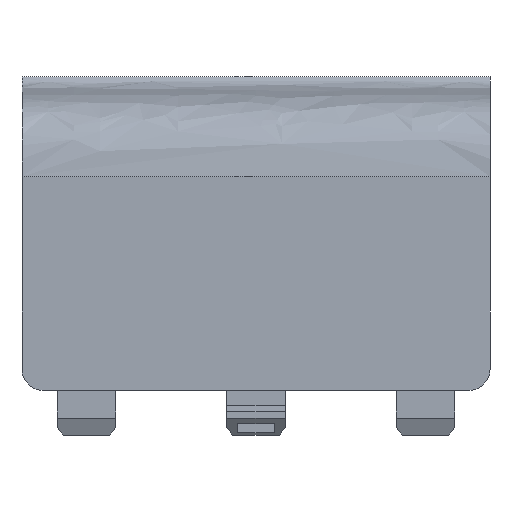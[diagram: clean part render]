
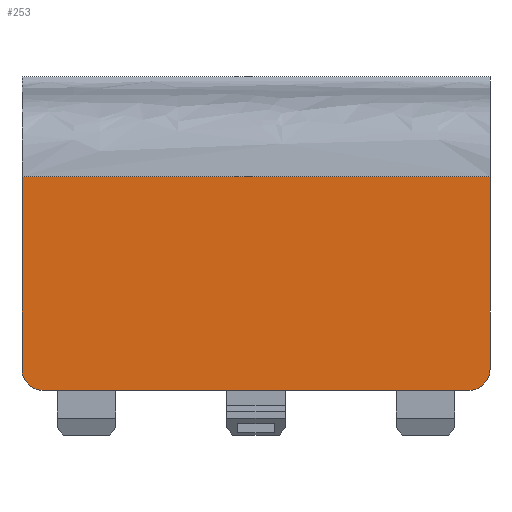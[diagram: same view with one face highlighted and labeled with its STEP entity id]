
A CAD part, front view. The second image highlights one B-rep face of the part: STEP entity #253.
In plain terms, the highlighted planar face has unit normal (0, -1, 0).
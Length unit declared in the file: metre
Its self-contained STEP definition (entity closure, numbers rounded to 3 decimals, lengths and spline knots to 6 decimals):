
#253 = ADVANCED_FACE( '', ( #563 ), #564, .F. );
#563 = FACE_OUTER_BOUND( '', #929, .T. );
#564 = PLANE( '', #930 );
#929 = EDGE_LOOP( '', ( #1696, #1697, #1698, #1699, #1700, #1701 ) );
#930 = AXIS2_PLACEMENT_3D( '', #1702, #1703, #1704 );
#1696 = ORIENTED_EDGE( '', *, *, #2735, .F. );
#1697 = ORIENTED_EDGE( '', *, *, #2736, .T. );
#1698 = ORIENTED_EDGE( '', *, *, #2518, .T. );
#1699 = ORIENTED_EDGE( '', *, *, #2438, .T. );
#1700 = ORIENTED_EDGE( '', *, *, #2694, .T. );
#1701 = ORIENTED_EDGE( '', *, *, #2737, .F. );
#1702 = CARTESIAN_POINT( '', ( -0.027788, 0., 0.018659 ) );
#1703 = DIRECTION( '', ( 0., 1., 0. ) );
#1704 = DIRECTION( '', ( 0., 0., 1. ) );
#2438 = EDGE_CURVE( '', #2906, #2907, #2908, .F. );
#2518 = EDGE_CURVE( '', #3052, #2906, #3053, .T. );
#2694 = EDGE_CURVE( '', #2907, #3337, #3339, .T. );
#2735 = EDGE_CURVE( '', #3398, #3399, #3400, .T. );
#2736 = EDGE_CURVE( '', #3398, #3052, #3401, .F. );
#2737 = EDGE_CURVE( '', #3399, #3337, #3402, .T. );
#2906 = VERTEX_POINT( '', #3597 );
#2907 = VERTEX_POINT( '', #3598 );
#2908 = CIRCLE( '', #3599, 0.00254 );
#3052 = VERTEX_POINT( '', #3847 );
#3053 = LINE( '', #3848, #3849 );
#3337 = VERTEX_POINT( '', #4365 );
#3339 = LINE( '', #4370, #4371 );
#3398 = VERTEX_POINT( '', #4507 );
#3399 = VERTEX_POINT( '', #4508 );
#3400 = LINE( '', #4509, #4510 );
#3401 = CIRCLE( '', #4511, 0.00254 );
#3402 = LINE( '', #4512, #4513 );
#3597 = CARTESIAN_POINT( '', ( 0.025248, 0., 0. ) );
#3598 = CARTESIAN_POINT( '', ( 0.027788, 0., 0.00254 ) );
#3599 = AXIS2_PLACEMENT_3D( '', #4895, #4896, #4897 );
#3847 = CARTESIAN_POINT( '', ( -0.025248, 0., 0. ) );
#3848 = CARTESIAN_POINT( '', ( -0.027788, 0., 0. ) );
#3849 = VECTOR( '', #4964, 1. );
#4365 = CARTESIAN_POINT( '', ( 0.027788, 0., 0.0254 ) );
#4370 = CARTESIAN_POINT( '', ( 0.027788, 0., 0.018659 ) );
#4371 = VECTOR( '', #5114, 1. );
#4507 = CARTESIAN_POINT( '', ( -0.027788, 0., 0.00254 ) );
#4508 = CARTESIAN_POINT( '', ( -0.027788, 0., 0.0254 ) );
#4509 = CARTESIAN_POINT( '', ( -0.027788, 0., 0.018659 ) );
#4510 = VECTOR( '', #5147, 1. );
#4511 = AXIS2_PLACEMENT_3D( '', #5148, #5149, #5150 );
#4512 = CARTESIAN_POINT( '', ( -0.027788, 0., 0.0254 ) );
#4513 = VECTOR( '', #5151, 1. );
#4895 = CARTESIAN_POINT( '', ( 0.025248, 0., 0.00254 ) );
#4896 = DIRECTION( '', ( 0., 1., 0. ) );
#4897 = DIRECTION( '', ( 0., 0., 1. ) );
#4964 = DIRECTION( '', ( 1., 0., 0. ) );
#5114 = DIRECTION( '', ( 0., 0., 1. ) );
#5147 = DIRECTION( '', ( 0., 0., 1. ) );
#5148 = CARTESIAN_POINT( '', ( -0.025248, 0., 0.00254 ) );
#5149 = DIRECTION( '', ( 0., 1., 0. ) );
#5150 = DIRECTION( '', ( 0., 0., 1. ) );
#5151 = DIRECTION( '', ( 1., 0., 0. ) );
